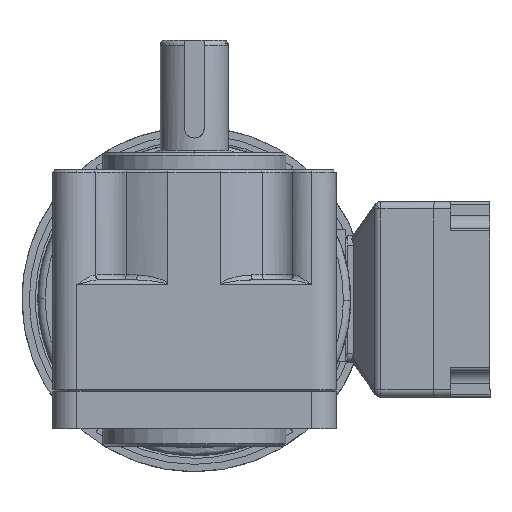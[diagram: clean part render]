
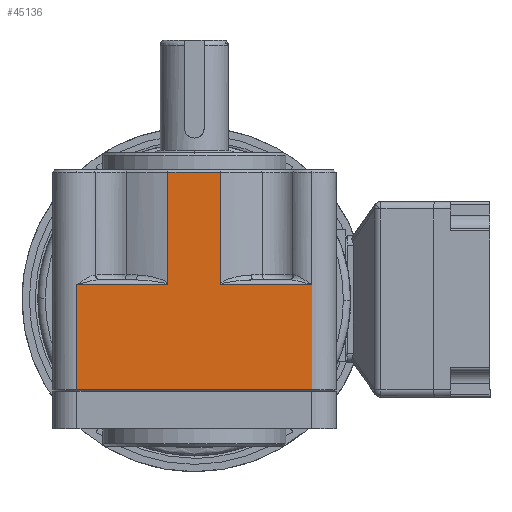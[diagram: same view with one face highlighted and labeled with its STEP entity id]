
A CAD part, front view. The second image highlights one B-rep face of the part: STEP entity #45136.
In plain terms, the highlighted planar face has unit normal (0, -1, 0).
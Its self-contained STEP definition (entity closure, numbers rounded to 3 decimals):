
#736 = ORIENTED_EDGE ( 'NONE', *, *, #42346, .T. ) ;
#1247 = PLANE ( 'NONE',  #17221 ) ;
#1463 = CARTESIAN_POINT ( 'NONE',  ( -21.288, -252.888, 52. ) ) ;
#2231 = DIRECTION ( 'NONE',  ( 0., 1., 0. ) ) ;
#4232 = CARTESIAN_POINT ( 'NONE',  ( -43.045, -252.888, 6.059 ) ) ;
#4431 = CARTESIAN_POINT ( 'NONE',  ( -21.288, -252.888, 6.52 ) ) ;
#5763 = VERTEX_POINT ( 'NONE', #49183 ) ;
#5831 = CARTESIAN_POINT ( 'NONE',  ( -35.71, -252.888, 52. ) ) ;
#7282 = VECTOR ( 'NONE', #8329, 1000. ) ;
#8329 = DIRECTION ( 'NONE',  ( 0., 0., -1. ) ) ;
#8632 = EDGE_LOOP ( 'NONE', ( #39601, #34541, #45203, #14499, #59283, #9638, #20406, #736, #10637, #51455 ) ) ;
#9463 = EDGE_CURVE ( 'NONE', #19631, #25782, #15695, .T. ) ;
#9638 = ORIENTED_EDGE ( 'NONE', *, *, #17060, .T. ) ;
#9715 = EDGE_CURVE ( 'NONE', #30218, #50882, #33660, .T. ) ;
#10378 = DIRECTION ( 'NONE',  ( 0., 0., 1. ) ) ;
#10637 = ORIENTED_EDGE ( 'NONE', *, *, #38399, .T. ) ;
#11096 = VECTOR ( 'NONE', #62652, 1000. ) ;
#12640 = CARTESIAN_POINT ( 'NONE',  ( -43.104, -252.888, 6. ) ) ;
#14499 = ORIENTED_EDGE ( 'NONE', *, *, #40883, .T. ) ;
#14603 = CARTESIAN_POINT ( 'NONE',  ( -42.921, -252.888, 52. ) ) ;
#14697 = LINE ( 'NONE', #38725, #36695 ) ;
#14863 = VERTEX_POINT ( 'NONE', #29259 ) ;
#15484 = EDGE_CURVE ( 'NONE', #28629, #62816, #43489, .T. ) ;
#15695 = LINE ( 'NONE', #45755, #43514 ) ;
#17060 = EDGE_CURVE ( 'NONE', #55258, #28629, #14697, .T. ) ;
#17221 = AXIS2_PLACEMENT_3D ( 'NONE', #58250, #2231, #22554 ) ;
#17912 = CARTESIAN_POINT ( 'NONE',  ( 15.896, -252.888, 6. ) ) ;
#18898 = LINE ( 'NONE', #17912, #53092 ) ;
#19631 = VERTEX_POINT ( 'NONE', #23981 ) ;
#19647 = DIRECTION ( 'NONE',  ( 0., 0., -1. ) ) ;
#20406 = ORIENTED_EDGE ( 'NONE', *, *, #15484, .T. ) ;
#20476 = CARTESIAN_POINT ( 'NONE',  ( -42.921, -252.888, 52. ) ) ;
#21642 = CARTESIAN_POINT ( 'NONE',  ( -42.921, -252.888, 6.52 ) ) ;
#22554 = DIRECTION ( 'NONE',  ( 1., 0., 0. ) ) ;
#23823 = B_SPLINE_CURVE_WITH_KNOTS ( 'NONE', 3,
 ( #24867, #34562, #29551, #49931, #55567, #39558, #4232, #45253 ),
 .UNSPECIFIED., .F., .F.,
 ( 4, 2, 2, 4 ),
 ( 0., 0.25, 0.5, 1. ),
 .UNSPECIFIED. ) ;
#23981 = CARTESIAN_POINT ( 'NONE',  ( 15.896, -252.888, -37. ) ) ;
#24867 = CARTESIAN_POINT ( 'NONE',  ( -42.921, -252.888, 6.52 ) ) ;
#25782 = VERTEX_POINT ( 'NONE', #32386 ) ;
#26765 = DIRECTION ( 'NONE',  ( 1., 0., 0. ) ) ;
#28629 = VERTEX_POINT ( 'NONE', #30982 ) ;
#29259 = CARTESIAN_POINT ( 'NONE',  ( -43.104, -252.888, 6. ) ) ;
#29551 = CARTESIAN_POINT ( 'NONE',  ( -42.925, -252.888, 6.412 ) ) ;
#30218 = VERTEX_POINT ( 'NONE', #35877 ) ;
#30982 = CARTESIAN_POINT ( 'NONE',  ( -21.288, -252.888, 52. ) ) ;
#32386 = CARTESIAN_POINT ( 'NONE',  ( 15.896, -252.888, 6. ) ) ;
#32567 = FACE_OUTER_BOUND ( 'NONE', #8632, .T. ) ;
#33660 = LINE ( 'NONE', #58354, #7282 ) ;
#34360 = CARTESIAN_POINT ( 'NONE',  ( -42.921, -252.888, 52. ) ) ;
#34541 = ORIENTED_EDGE ( 'NONE', *, *, #42878, .T. ) ;
#34562 = CARTESIAN_POINT ( 'NONE',  ( -42.921, -252.888, 6.465 ) ) ;
#35077 = VECTOR ( 'NONE', #19647, 1000. ) ;
#35308 = CARTESIAN_POINT ( 'NONE',  ( -21.288, -252.888, 6.408 ) ) ;
#35644 = CARTESIAN_POINT ( 'NONE',  ( -21.271, -252.888, 6.308 ) ) ;
#35877 = CARTESIAN_POINT ( 'NONE',  ( -80.104, -252.888, 6. ) ) ;
#36695 = VECTOR ( 'NONE', #54071, 1000. ) ;
#37122 = EDGE_CURVE ( 'NONE', #14863, #30218, #53316, .T. ) ;
#38335 = CARTESIAN_POINT ( 'NONE',  ( -80.104, -252.888, -37. ) ) ;
#38399 = EDGE_CURVE ( 'NONE', #57018, #14863, #23823, .T. ) ;
#38725 = CARTESIAN_POINT ( 'NONE',  ( -21.288, -252.888, 6.52 ) ) ;
#39558 = CARTESIAN_POINT ( 'NONE',  ( -43., -252.888, 6.133 ) ) ;
#39601 = ORIENTED_EDGE ( 'NONE', *, *, #9715, .T. ) ;
#40000 = CARTESIAN_POINT ( 'NONE',  ( -21.162, -252.888, 6.058 ) ) ;
#40883 = EDGE_CURVE ( 'NONE', #25782, #5763, #18898, .T. ) ;
#42346 = EDGE_CURVE ( 'NONE', #62816, #57018, #65018, .T. ) ;
#42878 = EDGE_CURVE ( 'NONE', #50882, #19631, #56831, .T. ) ;
#43489 = B_SPLINE_CURVE_WITH_KNOTS ( 'NONE', 3,
 ( #1463, #51506, #5831, #20476 ),
 .UNSPECIFIED., .F., .F.,
 ( 4, 4 ),
 ( 0., 1. ),
 .UNSPECIFIED. ) ;
#43514 = VECTOR ( 'NONE', #10378, 1000. ) ;
#44622 = DIRECTION ( 'NONE',  ( -1., 0., 0. ) ) ;
#45136 = ADVANCED_FACE ( 'NONE', ( #32567 ), #1247, .F. ) ;
#45203 = ORIENTED_EDGE ( 'NONE', *, *, #9463, .T. ) ;
#45253 = CARTESIAN_POINT ( 'NONE',  ( -43.104, -252.888, 6. ) ) ;
#45698 = CARTESIAN_POINT ( 'NONE',  ( -21.288, -252.888, 6.52 ) ) ;
#45755 = CARTESIAN_POINT ( 'NONE',  ( 15.896, -252.888, -37. ) ) ;
#49183 = CARTESIAN_POINT ( 'NONE',  ( -21.104, -252.888, 6. ) ) ;
#49931 = CARTESIAN_POINT ( 'NONE',  ( -42.941, -252.888, 6.312 ) ) ;
#50029 = CARTESIAN_POINT ( 'NONE',  ( -21.207, -252.888, 6.129 ) ) ;
#50882 = VERTEX_POINT ( 'NONE', #38335 ) ;
#51455 = ORIENTED_EDGE ( 'NONE', *, *, #37122, .T. ) ;
#51506 = CARTESIAN_POINT ( 'NONE',  ( -28.499, -252.888, 52. ) ) ;
#52479 = CARTESIAN_POINT ( 'NONE',  ( -80.104, -252.888, -37. ) ) ;
#53092 = VECTOR ( 'NONE', #44622, 1000. ) ;
#53316 = LINE ( 'NONE', #12640, #11096 ) ;
#54071 = DIRECTION ( 'NONE',  ( 0., 0., 1. ) ) ;
#54695 = CARTESIAN_POINT ( 'NONE',  ( -21.104, -252.888, 6. ) ) ;
#55258 = VERTEX_POINT ( 'NONE', #4431 ) ;
#55567 = CARTESIAN_POINT ( 'NONE',  ( -42.954, -252.888, 6.263 ) ) ;
#56831 = LINE ( 'NONE', #52479, #61603 ) ;
#57018 = VERTEX_POINT ( 'NONE', #21642 ) ;
#58250 = CARTESIAN_POINT ( 'NONE',  ( -32.104, -252.888, 7.5 ) ) ;
#58354 = CARTESIAN_POINT ( 'NONE',  ( -80.104, -252.888, 6. ) ) ;
#59283 = ORIENTED_EDGE ( 'NONE', *, *, #60678, .T. ) ;
#59316 = B_SPLINE_CURVE_WITH_KNOTS ( 'NONE', 3,
 ( #54695, #40000, #50029, #35644, #35308, #45698 ),
 .UNSPECIFIED., .F., .F.,
 ( 4, 2, 4 ),
 ( 0., 0.5, 1. ),
 .UNSPECIFIED. ) ;
#60678 = EDGE_CURVE ( 'NONE', #5763, #55258, #59316, .T. ) ;
#61603 = VECTOR ( 'NONE', #26765, 1000. ) ;
#62652 = DIRECTION ( 'NONE',  ( -1., 0., 0. ) ) ;
#62816 = VERTEX_POINT ( 'NONE', #14603 ) ;
#65018 = LINE ( 'NONE', #34360, #35077 ) ;
